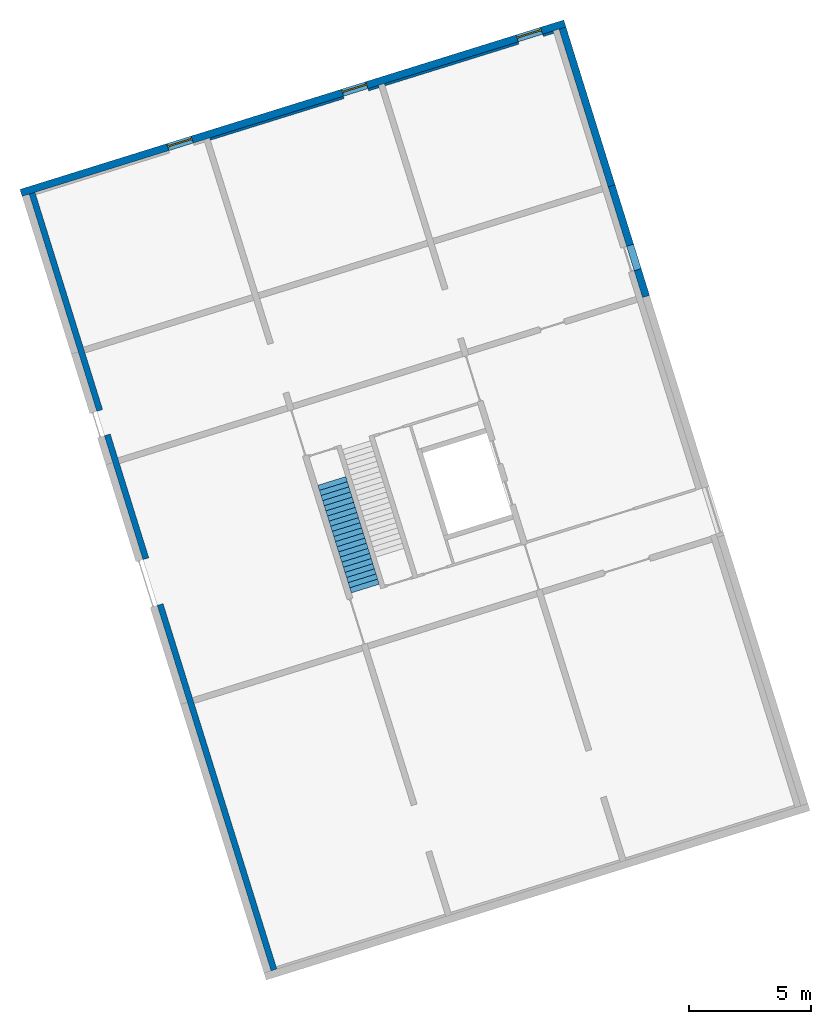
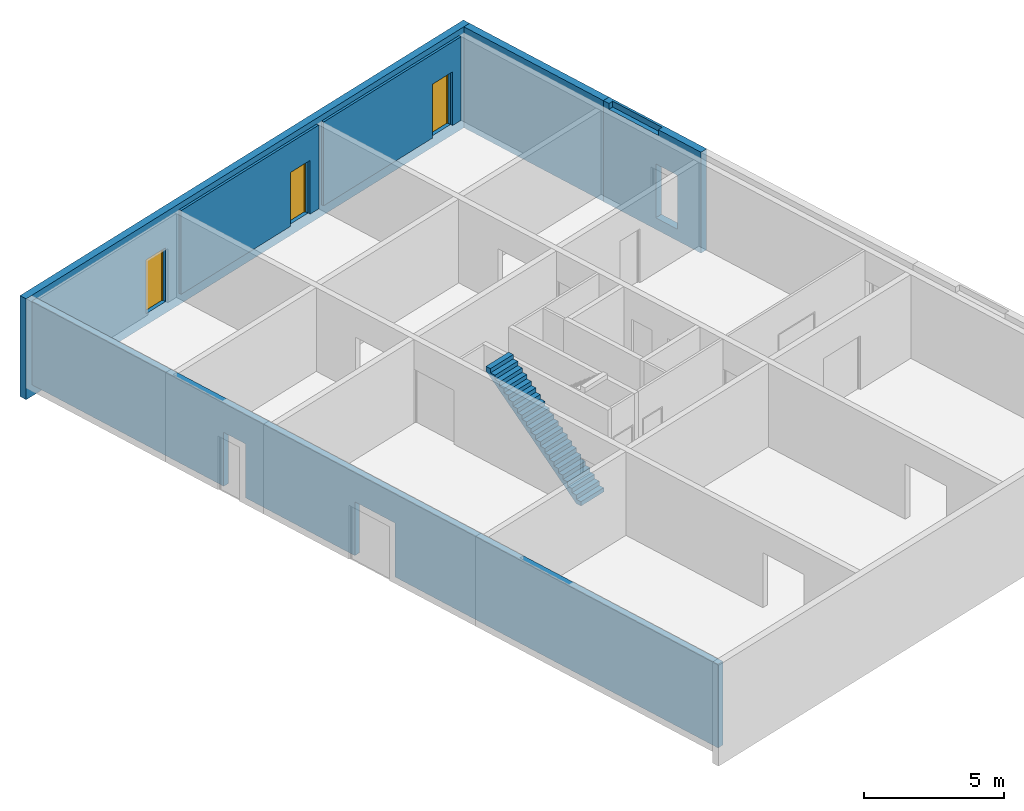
# One storey, part 4 of 5: 6 walls, 3 doors, 1 stair flight, 8 openings, 1 element without a shape of its own.
"""IFC4 building model written with IfcOpenShell, lengths in metres."""

from ifc_helpers import new_model, entity, si_unit, converted_unit, direction, frame, origin, place, context, subcontext, project, spatial, indexed_curve, outline, extrude, polygons, source, transform, mapped, material, constituent, constituent_set, type_object, type_shapes, element, fill, aggregate, save


model = new_model("IFC4")

# Units and contexts
model_context = context("Model", 3, precision=1e-05, world=origin(), true_north=direction((6.12323399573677e-17, 1.0)))
body_context = subcontext(model_context, "Body", "Model", "MODEL_VIEW")
ifc_project = project(units=[si_unit("LENGTHUNIT", "METRE"), si_unit("AREAUNIT", "SQUARE_METRE"), si_unit("VOLUMEUNIT", "CUBIC_METRE"), converted_unit("PLANEANGLEUNIT", "DEGREE", entity("IfcPlaneAngleMeasure", 0.0174532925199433), si_unit("PLANEANGLEUNIT", "RADIAN"), dimensions=[0, 0, 0, 0, 0, 0, 0])], contexts=[model_context])

# Site, building, storey
site_placement = place(None, frame((13.1347999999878, 11.9886000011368, 0.0), z_axis=(0.0, 0.0, 1.0), x_axis=(0.954770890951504, 0.297342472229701, 0.0)))
site = spatial("IfcSite", under=ifc_project, at=site_placement, Name="Schiehaven", CompositionType="ELEMENT")
building_placement = place(site_placement, origin())
building = spatial("IfcBuilding", under=site, at=building_placement, Name="VORM huis", CompositionType="ELEMENT")
storey_placement = place(building_placement, origin())
storey = spatial("IfcBuildingStorey", under=building, at=storey_placement, Name="00 begane grond", CompositionType="ELEMENT", Elevation=0.0)

# Wall, openings
ifc_material_1 = material(Name="beton_gewapend_ihw", Category="Miscellaneous")
wall_type_1 = type_object("IfcWallType", Name="Basic Wall:28_WA_skelet_wand 250mm_gen", PredefinedType="STANDARD")
wall_1_placement = place(storey_placement, frame((57.5000000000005, 0.37499999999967, 0.0), z_axis=(0.0, 0.0, 1.0), x_axis=(0.0, 1.0, 0.0)))
wall_1 = element("IfcWall", 1, at=wall_1_placement, inside=storey, type_object=wall_type_1, material=ifc_material_1, Name="Constructieve wand", ObjectType="Wand", PredefinedType="NOTDEFINED", context=body_context, shape_type="Tessellation", body=[
    polygons([(-1.35358391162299e-16, -0.125000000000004, 0.0), (15.6925, -0.125000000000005, 0.0), (15.6925, -0.125000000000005, 2.34999999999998), (17.6575, -0.125000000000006, 2.34999999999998), (17.6575, -0.125000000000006, 0.0), (22.9749999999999, -0.124999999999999, 0.0), (22.9749999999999, -0.124999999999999, 2.34999999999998), (24.0249999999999, -0.125000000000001, 2.34999999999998), (24.0249999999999, -0.125000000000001, 0.0), (33.35, -0.124999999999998, 0.0), (33.35, -0.124999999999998, 3.65), (-1.35358391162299e-16, -0.125000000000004, 3.65), (15.6925, 0.124999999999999, 2.34999999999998), (15.6925, 0.124999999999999, 0.0), (11.525, 0.125000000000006, 0.0), (1.35358391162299e-16, 0.124999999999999, 0.0), (1.35358391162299e-16, 0.124999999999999, 3.65), (7.05000000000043, 0.125000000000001, 3.65), (9.45000000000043, 0.125, 3.65), (23.9000000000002, 0.125000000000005, 3.65), (26.3000000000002, 0.125000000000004, 3.65), (33.35, 0.125000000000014, 3.65), (33.35, 0.125000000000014, 0.0), (26.5749999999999, 0.124999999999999, 0.0), (24.0249999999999, 0.124999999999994, 0.0), (24.0249999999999, 0.124999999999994, 2.34999999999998), (22.9749999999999, 0.125000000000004, 2.34999999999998), (22.9749999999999, 0.125000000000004, 0.0), (21.825, 0.124999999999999, 0.0), (17.6575, 0.124999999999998, 0.0), (17.6575, 0.124999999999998, 2.34999999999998)], [[[1, 2, 3, 4, 5, 6, 7, 8, 9, 10, 11, 12]], [[13, 14, 15, 16, 17, 18, 19, 20, 21, 22, 23, 24, 25, 26, 27, 28, 29, 30, 31]], [[10, 9, 25, 24, 23]], [[11, 10, 23, 22]], [[12, 11, 22, 21, 20, 19, 18, 17]], [[1, 12, 17, 16]], [[28, 27, 7, 6]], [[26, 25, 9, 8]], [[27, 26, 8, 7]], [[5, 4, 31, 30]], [[3, 2, 14, 13]], [[4, 3, 13, 31]], [[16, 15, 14, 2, 1]], [[30, 29, 28, 6, 5]]], closed=True),
])
opening_1_placement = place(wall_1_placement, origin())
element("IfcOpeningElement", 2, at=opening_1_placement, cuts=wall_1, Name="Vluchtdeur", PredefinedType="OPENING", context=body_context, shape_type="SweptSolid", body=[
    extrude(outline(indexed_curve([(-0.525000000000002, -1.17499999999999), (0.525000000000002, -1.17499999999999), (0.524999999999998, 1.17499999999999), (-0.525000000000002, 1.17499999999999), (-0.525000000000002, -1.17499999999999)], self_intersect=False)), frame((23.4999999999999, -1.39899999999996, 1.17499999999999), z_axis=(0.0, 1.0, 0.0), x_axis=(1.0, 0.0, 0.0)), (0.0, 0.0, 1.0), 3.048),
])
opening_2_placement = place(wall_1_placement, origin())
element("IfcOpeningElement", 3, at=opening_2_placement, cuts=wall_1, Name="Vluchtdeur", PredefinedType="OPENING", context=body_context, shape_type="SweptSolid", body=[
    extrude(outline(indexed_curve([(-1.17499999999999, -0.9825), (1.17499999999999, -0.982500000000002), (1.17499999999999, 0.982500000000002), (-1.17499999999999, 0.982500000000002), (-1.17499999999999, -0.9825)], self_intersect=False)), frame((16.675, -1.39899999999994, 1.17499999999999), z_axis=(0.0, 1.0, 0.0), x_axis=(0.0, 0.0, -1.0)), (0.0, 0.0, 1.0), 3.048),
])

# Wall, opening
ifc_material_2 = material(Name="ntb_ntb_ntb", Category="Miscellaneous")
wall_type_2 = type_object("IfcWallType", Name="Basic Wall:21_WA_gevel_binnenspouwwand 100mm_gen", PredefinedType="STANDARD")
wall_2_placement = place(storey_placement, frame((79.8749999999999, 33.675, 0.0), z_axis=(0.0, 0.0, 1.0), x_axis=(-1.0, 0.0, 0.0)))
wall_2 = element("IfcWall", 4, at=wall_2_placement, inside=storey, type_object=wall_type_2, material=ifc_material_2, Name="Binnenspouwblad", ObjectType="Wand", PredefinedType="NOTDEFINED", context=body_context, shape_type="Tessellation", body=[
    polygons([(1.5, -0.049999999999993, 2.34999999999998), (1.5, -0.049999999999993, 0.0), (7.24999999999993, -0.0499999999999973, 0.0), (7.24999999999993, -0.0499999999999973, 3.65), (-8.54813788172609e-15, -0.0499999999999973, 3.65), (-8.54813788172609e-15, -0.0499999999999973, 0.0), (0.45000000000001, -0.049999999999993, 0.0), (0.45000000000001, -0.049999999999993, 2.34999999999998), (7.24999999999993, 0.0500000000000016, 0.0), (1.5, 0.050000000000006, 0.0), (1.5, 0.050000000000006, 2.34999999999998), (0.450000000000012, 0.050000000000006, 2.34999999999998), (0.450000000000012, 0.050000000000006, 0.0), (-6.93019797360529e-15, 0.050000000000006, 0.0), (-6.93019797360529e-15, 0.050000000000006, 3.65), (7.24999999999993, 0.0500000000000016, 3.65)], [[[1, 2, 3, 4, 5, 6, 7, 8]], [[9, 10, 11, 12, 13, 14, 15, 16]], [[7, 6, 14, 13]], [[4, 3, 9, 16]], [[5, 4, 16, 15]], [[6, 5, 15, 14]], [[13, 12, 8, 7]], [[11, 10, 2, 1]], [[12, 11, 1, 8]], [[3, 2, 10, 9]]], closed=True),
])
opening_3_placement = place(wall_2_placement, origin())
element("IfcOpeningElement", 5, at=opening_3_placement, cuts=wall_2, Name="Woningtoegangsdeur", PredefinedType="OPENING", context=body_context, shape_type="SweptSolid", body=[
    extrude(outline(indexed_curve([(-0.525000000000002, -1.17499999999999), (0.524999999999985, -1.17499999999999), (0.525000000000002, 1.17499999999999), (-0.525000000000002, 1.17499999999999), (-0.525000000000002, -1.17499999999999)], self_intersect=False)), frame((0.975000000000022, -1.57399999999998, 1.17499999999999), z_axis=(0.0, 1.0, 0.0), x_axis=(1.0, 0.0, 0.0)), (0.0, 0.0, 1.0), 3.048),
])

wall_3_placement = place(storey_placement, frame((65.125, 33.6749999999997, 0.0)))
wall_3 = element("IfcWall", 6, at=wall_3_placement, inside=storey, type_object=wall_type_2, material=ifc_material_2, Name="Binnenspouwblad", ObjectType="Wand", PredefinedType="NOTDEFINED", context=body_context, shape_type="Tessellation", body=[
    polygons([(-1.4724555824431e-15, -0.0499999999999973, 0.0), (5.74999999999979, -0.0499999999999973, 0.0), (5.74999999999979, -0.0499999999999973, 2.34999999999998), (6.7999999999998, -0.049999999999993, 2.34999999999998), (6.7999999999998, -0.049999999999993, 0.0), (7.24999999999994, -0.049999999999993, 0.0), (7.24999999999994, -0.049999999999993, 3.65), (-1.4724555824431e-15, -0.0499999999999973, 3.65), (5.74999999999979, 0.050000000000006, 2.34999999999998), (5.74999999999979, 0.050000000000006, 0.0), (-1.62902175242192e-16, 0.0500000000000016, 0.0), (-1.62902175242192e-16, 0.0500000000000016, 3.65), (7.24999999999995, 0.0500000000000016, 3.65), (7.24999999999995, 0.0500000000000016, 0.0), (6.7999999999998, 0.0500000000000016, 0.0), (6.7999999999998, 0.0500000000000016, 2.34999999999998)], [[[1, 2, 3, 4, 5, 6, 7, 8]], [[9, 10, 11, 12, 13, 14, 15, 16]], [[11, 10, 2, 1]], [[7, 6, 14, 13]], [[8, 7, 13, 12]], [[1, 8, 12, 11]], [[5, 4, 16, 15]], [[3, 2, 10, 9]], [[4, 3, 9, 16]], [[15, 14, 6, 5]]], closed=True),
])
opening_4_placement = place(wall_3_placement, origin())
element("IfcOpeningElement", 7, at=opening_4_placement, cuts=wall_3, Name="Woningtoegangsdeur", PredefinedType="OPENING", context=body_context, shape_type="SweptSolid", body=[
    extrude(outline(indexed_curve([(-1.17499999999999, -0.525000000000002), (1.17499999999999, -0.525000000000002), (1.17499999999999, 0.525000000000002), (-1.17499999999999, 0.525000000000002), (-1.17499999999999, -0.525000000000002)], self_intersect=False)), frame((6.2749999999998, -1.47400000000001, 1.17499999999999), z_axis=(0.0, 1.0, 0.0), x_axis=(0.0, 0.0, -1.0)), (0.0, 0.0, 1.0), 3.048),
])

# Wall, openings, doors
wall_type_3 = type_object("IfcWallType", Name="Basic Wall: 300mm_gen", PredefinedType="STANDARD")
wall_4_placement = place(storey_placement, frame((80.4249999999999, 33.875, -0.5), z_axis=(0.0, 0.0, 1.0), x_axis=(-1.0, 0.0, 0.0)))
wall_4 = element("IfcWall", 8, at=wall_4_placement, inside=storey, type_object=wall_type_3, material=ifc_material_2, Name="Gevelwand", ObjectType="Wand", PredefinedType="NOTDEFINED", context=body_context, shape_type="Tessellation", body=[
    polygons([(-7.5167205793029e-15, -0.150000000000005, 0.0), (23.35, -0.149999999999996, 0.0), (23.35, -0.149999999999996, 4.4), (-7.5167205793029e-15, -0.150000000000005, 4.4), (16.0000000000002, -0.150000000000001, 2.84999999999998), (17.0500000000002, -0.150000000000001, 2.84999999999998), (17.0500000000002, -0.150000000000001, 0.5), (16.0000000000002, -0.150000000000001, 0.5), (8.50000000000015, -0.149999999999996, 2.84999999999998), (9.55000000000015, -0.149999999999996, 2.84999999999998), (9.55000000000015, -0.149999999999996, 0.5), (8.50000000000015, -0.149999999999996, 0.5), (1.00000000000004, -0.149999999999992, 2.84999999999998), (2.05000000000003, -0.150000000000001, 2.84999999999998), (2.05000000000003, -0.150000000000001, 0.5), (1.00000000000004, -0.149999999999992, 0.5), (-3.02031732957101e-15, 0.149999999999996, 0.0), (-3.02031732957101e-15, 0.149999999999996, 4.4), (0.299999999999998, 0.150000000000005, 4.4), (23.05, 0.150000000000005, 4.4), (23.3500000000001, 0.150000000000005, 4.4), (23.35, 0.150000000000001, 0.5), (23.3500000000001, 0.150000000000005, 0.0), (0.299999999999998, 0.150000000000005, 0.0), (1.00000000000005, 0.150000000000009, 2.84999999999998), (1.00000000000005, 0.150000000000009, 0.5), (2.05000000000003, 0.150000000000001, 0.5), (2.05000000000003, 0.150000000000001, 2.84999999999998), (8.50000000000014, 0.150000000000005, 2.84999999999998), (8.50000000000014, 0.150000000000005, 0.5), (9.55000000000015, 0.150000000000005, 0.5), (9.55000000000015, 0.150000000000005, 2.84999999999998), (16.0000000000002, 0.150000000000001, 2.84999999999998), (16.0000000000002, 0.150000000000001, 0.5), (17.0500000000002, 0.150000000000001, 0.5), (17.0500000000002, 0.150000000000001, 2.84999999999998)], [[[1, 2, 3, 4], [5, 6, 7, 8], [9, 10, 11, 12], [13, 14, 15, 16]], [[17, 18, 19, 20, 21, 22, 23, 24], [25, 26, 27, 28], [29, 30, 31, 32], [33, 34, 35, 36]], [[2, 1, 17, 24, 23]], [[4, 3, 21, 20, 19, 18]], [[34, 33, 5, 8]], [[35, 34, 8, 7]], [[36, 35, 7, 6]], [[33, 36, 6, 5]], [[30, 29, 9, 12]], [[31, 30, 12, 11]], [[32, 31, 11, 10]], [[29, 32, 10, 9]], [[26, 25, 13, 16]], [[27, 26, 16, 15]], [[28, 27, 15, 14]], [[25, 28, 14, 13]], [[1, 4, 18, 17]], [[3, 2, 23, 22, 21]]], closed=True),
])
opening_5_placement = place(wall_4_placement, frame((2.05000000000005, 0.150000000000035, 0.5)))
opening_5 = element("IfcOpeningElement", 9, at=opening_5_placement, cuts=wall_4, Name="Woningtoegangsdeur", PredefinedType="OPENING", context=body_context, shape_type="SweptSolid", body=[
    extrude(outline(indexed_curve([(2.34999999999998, 1.05000000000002), (0.0, 1.05), (0.0, 1.46187062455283e-14), (2.34999999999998, 1.46187062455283e-14), (2.34999999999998, 1.05000000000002)], self_intersect=False)), frame((0.0, 0.0, 0.0), z_axis=(0.0, -1.0, 0.0), x_axis=(0.0, 0.0, 1.0)), (0.0, 0.0, 1.0), 0.3),
])
opening_6_placement = place(wall_4_placement, frame((9.55000000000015, 0.150000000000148, 0.5)))
opening_6 = element("IfcOpeningElement", 10, at=opening_6_placement, cuts=wall_4, Name="Woningtoegangsdeur", PredefinedType="OPENING", context=body_context, shape_type="SweptSolid", body=[
    extrude(outline(indexed_curve([(2.34999999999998, 1.05), (0.0, 1.05), (0.0, 0.0), (2.34999999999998, 0.0), (2.34999999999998, 1.05)], self_intersect=False)), frame((0.0, 0.0, 0.0), z_axis=(0.0, -1.0, 0.0), x_axis=(0.0, 0.0, 1.0)), (0.0, 0.0, 1.0), 0.3),
])
opening_7_placement = place(wall_4_placement, frame((17.0500000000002, 0.15000000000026, 0.5)))
opening_7 = element("IfcOpeningElement", 11, at=opening_7_placement, cuts=wall_4, Name="Woningtoegangsdeur", PredefinedType="OPENING", context=body_context, shape_type="SweptSolid", body=[
    extrude(outline(indexed_curve([(2.34999999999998, 1.05), (0.0, 1.05), (0.0, 0.0), (2.34999999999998, 0.0), (2.34999999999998, 1.05)], self_intersect=False)), frame((0.0, 0.0, 0.0), z_axis=(0.0, -1.0, 0.0), x_axis=(0.0, 0.0, 1.0)), (0.0, 0.0, 1.0), 0.3),
])
ifc_material_3 = material(Name="PD_a_buitenwandopeningen", Category="Miscellaneous")
ifc_constituent_1 = constituent(ifc_material_3, Name="PD_a_buitenwandopeningen", Category="Miscellaneous")
ifc_material_4 = material(Name="metaal_aluminium_ntb", Category="Miscellaneous")
ifc_constituent_2 = constituent(ifc_material_4, Name="metaal_aluminium_ntb", Category="Miscellaneous")
ifc_constituent_set_1 = constituent_set(constituents=[ifc_constituent_1, ifc_constituent_2])
ifc_constituent_3 = constituent(ifc_material_3, Name="PD_a_buitenwandopeningen", Category="Miscellaneous")
ifc_constituent_4 = constituent(ifc_material_4, Name="Panel", Category="Miscellaneous")
ifc_constituent_set_2 = constituent_set(constituents=[ifc_constituent_3, ifc_constituent_4])
door_type = type_object("IfcDoorType", Name="31_DO_buitendeur enkel:woningtoegangsdeur", OperationType="REVOLVING", PredefinedType="DOOR", material=ifc_constituent_set_2)
shared_shape = source(origin(), body_context, "Body", "SweptSolid", [
    extrude(outline(indexed_curve([(-1.16249999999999, -0.525000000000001), (1.18749999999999, -0.525), (1.18749999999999, 0.525000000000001), (-1.16249999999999, 0.525), (-1.16249999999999, 0.475), (1.13749999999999, 0.475), (1.13749999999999, -0.475), (-1.16249999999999, -0.475), (-1.16249999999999, -0.525000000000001)], self_intersect=False)), frame((0.525000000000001, 0.130000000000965, 1.16249999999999), z_axis=(0.0, 1.0, 0.0), x_axis=(0.0, 0.0, 1.0)), (0.0, 0.0, 1.0), 0.1),
    extrude(outline(indexed_curve([(-0.025, -0.475), (0.025, -0.475), (0.025, 0.475), (-0.025, 0.475), (-0.025, -0.475)], self_intersect=False)), frame((0.525000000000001, 0.180000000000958, 0.0), z_axis=(0.0, 0.0, 1.0), x_axis=(0.0, 1.0, 0.0)), (0.0, 0.0, 1.0), 2.29999999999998),
])
type_shapes(door_type, [shared_shape])
door_1_placement = place(opening_5_placement, frame((0.0, 0.0, 0.0), z_axis=(0.0, 0.0, 1.0), x_axis=(-1.0, 0.0, 0.0)))
door_1 = element("IfcDoor", 12, at=door_1_placement, inside=storey, type_object=door_type, material=ifc_constituent_set_1, Name="Woningtoegangsdeur", ObjectType="Deur", OperationType="REVOLVING", OverallHeight=2.34999999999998, OverallWidth=1.05000000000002, PredefinedType="DOOR", context=body_context, shape_type="MappedRepresentation", body=[
    mapped(shared_shape, transform((0.0, 0.0, 0.0), scale=1.0)),
])
fill(opening_5, door_1)
ifc_constituent_5 = constituent(ifc_material_3, Name="PD_a_buitenwandopeningen", Category="Miscellaneous")
ifc_constituent_6 = constituent(ifc_material_4, Name="metaal_aluminium_ntb", Category="Miscellaneous")
ifc_constituent_set_3 = constituent_set(constituents=[ifc_constituent_5, ifc_constituent_6])
door_2_placement = place(opening_6_placement, frame((0.0, 0.0, 0.0), z_axis=(0.0, 0.0, 1.0), x_axis=(-1.0, 0.0, 0.0)))
door_2 = element("IfcDoor", 13, at=door_2_placement, inside=storey, type_object=door_type, material=ifc_constituent_set_3, Name="Woningtoegangsdeur", ObjectType="Deur", OperationType="REVOLVING", OverallHeight=2.34999999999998, OverallWidth=1.05, PredefinedType="DOOR", context=body_context, shape_type="MappedRepresentation", body=[
    mapped(shared_shape, transform((0.0, 0.0, 0.0), scale=1.0)),
])
fill(opening_6, door_2)
ifc_constituent_7 = constituent(ifc_material_3, Name="PD_a_buitenwandopeningen", Category="Miscellaneous")
ifc_constituent_8 = constituent(ifc_material_4, Name="metaal_aluminium_ntb", Category="Miscellaneous")
ifc_constituent_set_4 = constituent_set(constituents=[ifc_constituent_7, ifc_constituent_8])
door_3_placement = place(opening_7_placement, frame((0.0, 0.0, 0.0), z_axis=(0.0, 0.0, 1.0), x_axis=(-1.0, 0.0, 0.0)))
door_3 = element("IfcDoor", 14, at=door_3_placement, inside=storey, type_object=door_type, material=ifc_constituent_set_4, Name="Woningtoegangsdeur", ObjectType="Deur", OperationType="REVOLVING", OverallHeight=2.34999999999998, OverallWidth=1.05, PredefinedType="DOOR", context=body_context, shape_type="MappedRepresentation", body=[
    mapped(shared_shape, transform((0.0, 0.0, 0.0), scale=1.0)),
])
fill(opening_7, door_3)

# Wall
wall_5_placement = place(storey_placement, frame((80.2750000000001, 22.2, -0.5), z_axis=(0.0, 0.0, 1.0), x_axis=(0.0, 1.0, 0.0)))
element("IfcWall", 15, at=wall_5_placement, inside=storey, type_object=wall_type_3, material=ifc_material_2, Name="Gevelwand", ObjectType="Wand", PredefinedType="NOTDEFINED", context=body_context, shape_type="Tessellation", body=[
    polygons([(0.0, -0.149999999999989, 0.0), (4.74999999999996, -0.149999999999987, 0.0), (4.74999999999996, -0.149999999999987, 4.4), (0.0, -0.149999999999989, 4.4), (1.14999999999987, -0.149999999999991, 0.5), (1.14999999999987, -0.149999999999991, 2.84999999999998), (2.19999999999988, -0.150000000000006, 2.84999999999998), (2.19999999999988, -0.150000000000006, 0.5), (4.74999999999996, 0.15000000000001, 0.0), (0.0, 0.150000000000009, 0.0), (0.0, 0.150000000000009, 4.4), (2.07500000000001, 0.149999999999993, 4.4), (2.07500000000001, 0.149999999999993, 4.15), (4.47500000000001, 0.15, 4.15), (4.47500000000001, 0.15, 4.4), (4.74999999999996, 0.15000000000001, 4.4), (1.14999999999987, 0.150000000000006, 2.84999999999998), (1.14999999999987, 0.150000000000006, 0.5), (2.19999999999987, 0.149999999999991, 0.5), (2.19999999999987, 0.149999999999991, 2.84999999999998), (4.475, -0.0500000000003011, 4.4), (2.075, -0.0500000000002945, 4.4), (2.075, -0.0500000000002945, 4.15), (4.475, -0.0500000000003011, 4.15)], [[[1, 2, 3, 4], [5, 6, 7, 8]], [[9, 10, 11, 12, 13, 14, 15, 16], [17, 18, 19, 20]], [[2, 1, 10, 9]], [[3, 2, 9, 16]], [[4, 3, 16, 15, 21, 22, 12, 11]], [[1, 4, 11, 10]], [[5, 18, 17, 6]], [[18, 5, 8, 19]], [[19, 8, 7, 20]], [[6, 17, 20, 7]], [[23, 24, 14, 13]], [[24, 21, 15, 14]], [[24, 23, 22, 21]], [[22, 23, 13, 12]]], closed=True),
])

# Wall, opening
wall_6_placement = place(storey_placement, frame((80.275, 26.95, -0.5), z_axis=(0.0, 0.0, 1.0), x_axis=(0.0, 1.0, 0.0)))
wall_6 = element("IfcWall", 16, at=wall_6_placement, inside=storey, type_object=wall_type_3, material=ifc_material_2, Name="Gevelwand", ObjectType="Wand", PredefinedType="NOTDEFINED", context=body_context, shape_type="Tessellation", body=[
    polygons([(0.0, -0.150000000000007, 0.0), (6.77499999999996, -0.150000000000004, 0.0), (6.77499999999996, -0.150000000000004, 4.4), (0.0, -0.150000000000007, 4.4), (0.0, 0.149999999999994, 0.0), (0.0, 0.149999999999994, 4.4), (6.77499999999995, 0.149999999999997, 4.4), (6.77499999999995, 0.149999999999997, 4.15), (6.77499999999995, 0.149999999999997, 0.5), (6.77499999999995, 0.149999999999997, 0.0)], [[[1, 2, 3, 4]], [[5, 6, 7, 8, 9, 10]], [[2, 1, 5, 10]], [[4, 3, 7, 6]], [[1, 4, 6, 5]], [[3, 2, 10, 9, 8, 7]]], closed=True),
])
opening_8_placement = place(wall_6_placement, origin())
element("IfcOpeningElement", 17, at=opening_8_placement, cuts=wall_6, Name="Vluchtdeur", PredefinedType="OPENING", context=body_context, shape_type="SweptSolid", body=[
    extrude(outline(indexed_curve([(-0.525000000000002, -1.17499999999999), (0.525000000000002, -1.17499999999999), (0.524999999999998, 1.17499999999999), (-0.525000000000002, 1.17499999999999), (-0.525000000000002, -1.17499999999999)], self_intersect=False)), frame((-3.07500000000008, -1.12399999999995, 1.67499999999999), z_axis=(0.0, 1.0, 0.0), x_axis=(1.0, 0.0, 0.0)), (0.0, 0.0, 1.0), 3.048),
])

# Stair, stair flight
stair_type = type_object("IfcStairType", Name="Trap", PredefinedType="STRAIGHT_RUN_STAIR")
stair_placement = place(storey_placement, origin())
stair = element("IfcStair", 18, at=stair_placement, inside=storey, type_object=stair_type, Name="Hoofdtrap", ObjectType="Trap", PredefinedType="STRAIGHT_RUN_STAIR")
ifc_material_5 = material(Name="beton_gewapend_prefab-element", Category="Miscellaneous")
stair_flight_type = type_object("IfcStairFlightType", Name="Monolithic Run:NLRS_24_STRR_trap-beton prefab-monolithisch-recht_gen_rsf", PredefinedType="STRAIGHT")
stair_flight_placement = place(stair_placement, frame((65.1250000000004, 14.19, 0.0)))
stair_flight = element("IfcStairFlight", 19, at=stair_flight_placement, type_object=stair_flight_type, material=ifc_material_5, Name="Hoofdtrap Run 1", ObjectType="Monolithic Run:NLRS_24_STRR_trap-beton prefab-monolithisch-recht_gen_rsf", PredefinedType="STRAIGHT", context=body_context, shape_type="Tessellation", body=[
    polygons([(0.0, 0.219999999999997, 0.185714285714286), (0.0, -1.77635683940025e-15, 0.185714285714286), (1.2, -1.77635683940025e-15, 0.185714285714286), (1.2, 0.219999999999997, 0.185714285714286), (0.0, 0.219999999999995, 0.0), (0.0, -1.77635683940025e-15, 0.0), (1.2, -1.77635683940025e-15, 0.0), (1.2, 0.219999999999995, 0.0), (0.0, 0.439999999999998, 0.371428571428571), (0.0, 0.219999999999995, 0.371428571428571), (1.2, 0.219999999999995, 0.371428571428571), (1.2, 0.439999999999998, 0.371428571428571), (0.0, 0.439999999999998, 0.175129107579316), (0.0, 0.232539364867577, 0.0), (1.2, 0.232539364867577, 0.0), (1.2, 0.439999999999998, 0.175129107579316), (0.0, 0.659999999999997, 0.557142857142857), (0.0, 0.439999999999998, 0.557142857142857), (1.2, 0.439999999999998, 0.557142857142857), (1.2, 0.659999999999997, 0.557142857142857), (0.0, 0.659999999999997, 0.360843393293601), (1.2, 0.659999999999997, 0.360843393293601), (0.0, 0.879999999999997, 0.742857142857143), (0.0, 0.659999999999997, 0.742857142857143), (1.2, 0.659999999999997, 0.742857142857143), (1.2, 0.879999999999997, 0.742857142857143), (0.0, 0.879999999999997, 0.546557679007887), (1.2, 0.879999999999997, 0.546557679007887), (0.0, 1.1, 0.928571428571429), (0.0, 0.879999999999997, 0.928571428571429), (1.2, 0.879999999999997, 0.928571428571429), (1.2, 1.1, 0.928571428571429), (0.0, 1.09999999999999, 0.732271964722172), (1.2, 1.09999999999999, 0.732271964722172), (0.0, 1.32, 1.11428571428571), (0.0, 1.1, 1.11428571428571), (1.2, 1.1, 1.11428571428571), (1.2, 1.32, 1.11428571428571), (0.0, 1.32, 0.91798625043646), (1.2, 1.32, 0.91798625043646), (0.0, 1.54, 1.3), (0.0, 1.32, 1.3), (1.2, 1.32, 1.3), (1.2, 1.54, 1.3), (0.0, 1.54, 1.10370053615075), (1.2, 1.54, 1.10370053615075), (0.0, 1.76, 1.48571428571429), (0.0, 1.54, 1.48571428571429), (1.2, 1.54, 1.48571428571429), (1.2, 1.76, 1.48571428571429), (0.0, 1.76, 1.28941482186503), (1.2, 1.76, 1.28941482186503), (0.0, 1.98000000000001, 1.67142857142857), (0.0, 1.76, 1.67142857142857), (1.2, 1.76, 1.67142857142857), (1.2, 1.98000000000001, 1.67142857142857), (0.0, 1.98, 1.47512910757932), (1.2, 1.98, 1.47512910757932), (0.0, 2.20000000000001, 1.85714285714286), (0.0, 1.98000000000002, 1.85714285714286), (1.2, 1.98000000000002, 1.85714285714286), (1.20000000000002, 2.20000000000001, 1.85714285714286), (0.0, 2.20000000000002, 1.66084339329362), (1.20000000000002, 2.20000000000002, 1.66084339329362), (0.0, 2.42, 2.04285714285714), (0.0, 2.2, 2.04285714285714), (1.20000000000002, 2.2, 2.04285714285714), (1.20000000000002, 2.42, 2.04285714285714), (0.0, 2.42, 1.84655767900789), (1.20000000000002, 2.42, 1.84655767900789), (0.0, 2.64, 2.22857142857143), (0.0, 2.42, 2.22857142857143), (1.20000000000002, 2.42, 2.22857142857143), (1.20000000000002, 2.64, 2.22857142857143), (0.0, 2.64, 2.03227196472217), (1.20000000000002, 2.64, 2.03227196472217), (0.0, 2.86, 2.41428571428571), (0.0, 2.64, 2.41428571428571), (1.20000000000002, 2.64, 2.41428571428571), (1.20000000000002, 2.86, 2.41428571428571), (0.0, 2.86, 2.21798625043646), (1.20000000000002, 2.86, 2.21798625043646), (0.0, 3.08, 2.6), (0.0, 2.86, 2.6), (1.20000000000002, 2.86, 2.6), (1.20000000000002, 3.08, 2.6), (0.0, 3.08, 2.40370053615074), (1.20000000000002, 3.08, 2.40370053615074), (0.0, 3.3, 2.78571428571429), (0.0, 3.08, 2.78571428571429), (1.20000000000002, 3.08, 2.78571428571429), (1.20000000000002, 3.3, 2.78571428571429), (0.0, 3.3, 2.58941482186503), (1.20000000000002, 3.3, 2.58941482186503), (0.0, 3.52, 2.97142857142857), (0.0, 3.3, 2.97142857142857), (1.20000000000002, 3.3, 2.97142857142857), (1.20000000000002, 3.52, 2.97142857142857), (0.0, 3.52, 2.77512910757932), (1.20000000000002, 3.52, 2.77512910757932), (0.0, 3.74, 3.15714285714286), (0.0, 3.52, 3.15714285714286), (1.20000000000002, 3.52, 3.15714285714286), (1.20000000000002, 3.74, 3.15714285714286), (0.0, 3.74, 2.9608433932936), (1.20000000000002, 3.74, 2.9608433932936), (0.0, 3.96, 3.34285714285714), (0.0, 3.74, 3.34285714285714), (1.20000000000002, 3.74, 3.34285714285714), (1.20000000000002, 3.96, 3.34285714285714), (0.0, 3.96, 3.14655767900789), (1.20000000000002, 3.96, 3.14655767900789), (0.0, 4.18, 3.52857142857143), (0.0, 3.96, 3.52857142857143), (1.20000000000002, 3.96, 3.52857142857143), (1.20000000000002, 4.18, 3.52857142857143), (0.0, 4.18, 3.33227196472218), (1.20000000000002, 4.18, 3.33227196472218), (0.0, 4.4, 3.71428571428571), (0.0, 4.18, 3.71428571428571), (1.20000000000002, 4.18, 3.71428571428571), (1.20000000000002, 4.4, 3.71428571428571), (0.0, 4.4, 3.51798625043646), (1.20000000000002, 4.4, 3.51798625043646), (0.0, 4.62, 3.9), (0.0, 4.4, 3.9), (1.20000000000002, 4.4, 3.9), (1.20000000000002, 4.62, 3.9), (0.0, 4.62, 3.70370053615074), (1.20000000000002, 4.62, 3.70370053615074)], [[[1, 2, 3, 4]], [[2, 1, 5, 6]], [[3, 2, 6, 7]], [[4, 3, 7, 8]], [[9, 10, 11, 12]], [[5, 1, 10, 9, 13, 14]], [[1, 4, 11, 10]], [[4, 8, 15, 16, 12, 11]], [[17, 18, 19, 20]], [[18, 17, 21, 13, 9]], [[9, 12, 19, 18]], [[20, 19, 12, 16, 22]], [[23, 24, 25, 26]], [[24, 23, 27, 21, 17]], [[17, 20, 25, 24]], [[26, 25, 20, 22, 28]], [[29, 30, 31, 32]], [[30, 29, 33, 27, 23]], [[23, 26, 31, 30]], [[32, 31, 26, 28, 34]], [[35, 36, 37, 38]], [[36, 35, 39, 33, 29]], [[29, 32, 37, 36]], [[38, 37, 32, 34, 40]], [[41, 42, 43, 44]], [[42, 41, 45, 39, 35]], [[35, 38, 43, 42]], [[44, 43, 38, 40, 46]], [[47, 48, 49, 50]], [[48, 47, 51, 45, 41]], [[41, 44, 49, 48]], [[50, 49, 44, 46, 52]], [[53, 54, 55, 56]], [[54, 53, 57, 51, 47]], [[47, 50, 55, 54]], [[56, 55, 50, 52, 58]], [[59, 60, 61, 62]], [[60, 59, 63, 57, 53]], [[53, 56, 61, 60]], [[62, 61, 56, 58, 64]], [[65, 66, 67, 68]], [[66, 65, 69, 63, 59]], [[59, 62, 67, 66]], [[68, 67, 62, 64, 70]], [[71, 72, 73, 74]], [[72, 71, 75, 69, 65]], [[65, 68, 73, 72]], [[74, 73, 68, 70, 76]], [[77, 78, 79, 80]], [[78, 77, 81, 75, 71]], [[71, 74, 79, 78]], [[80, 79, 74, 76, 82]], [[83, 84, 85, 86]], [[84, 83, 87, 81, 77]], [[77, 80, 85, 84]], [[86, 85, 80, 82, 88]], [[89, 90, 91, 92]], [[90, 89, 93, 87, 83]], [[83, 86, 91, 90]], [[92, 91, 86, 88, 94]], [[95, 96, 97, 98]], [[96, 95, 99, 93, 89]], [[89, 92, 97, 96]], [[98, 97, 92, 94, 100]], [[101, 102, 103, 104]], [[102, 101, 105, 99, 95]], [[95, 98, 103, 102]], [[104, 103, 98, 100, 106]], [[107, 108, 109, 110]], [[108, 107, 111, 105, 101]], [[101, 104, 109, 108]], [[110, 109, 104, 106, 112]], [[113, 114, 115, 116]], [[114, 113, 117, 111, 107]], [[107, 110, 115, 114]], [[116, 115, 110, 112, 118]], [[119, 120, 121, 122]], [[120, 119, 123, 117, 113]], [[113, 116, 121, 120]], [[122, 121, 116, 118, 124]], [[125, 126, 127, 128]], [[126, 125, 129, 123, 119]], [[119, 122, 127, 126]], [[128, 127, 122, 124, 130]], [[125, 128, 130, 129]], [[6, 5, 14, 15, 8, 7]], [[15, 14, 13, 21, 27, 33, 39, 45, 51, 57, 63, 69, 75, 81, 87, 93, 99, 105, 111, 117, 123, 129, 130, 124, 118, 112, 106, 100, 94, 88, 82, 76, 70, 64, 58, 52, 46, 40, 34, 28, 22, 16]]], closed=True),
])
aggregate(stair, [stair_flight])

save(model, "model.ifc")
